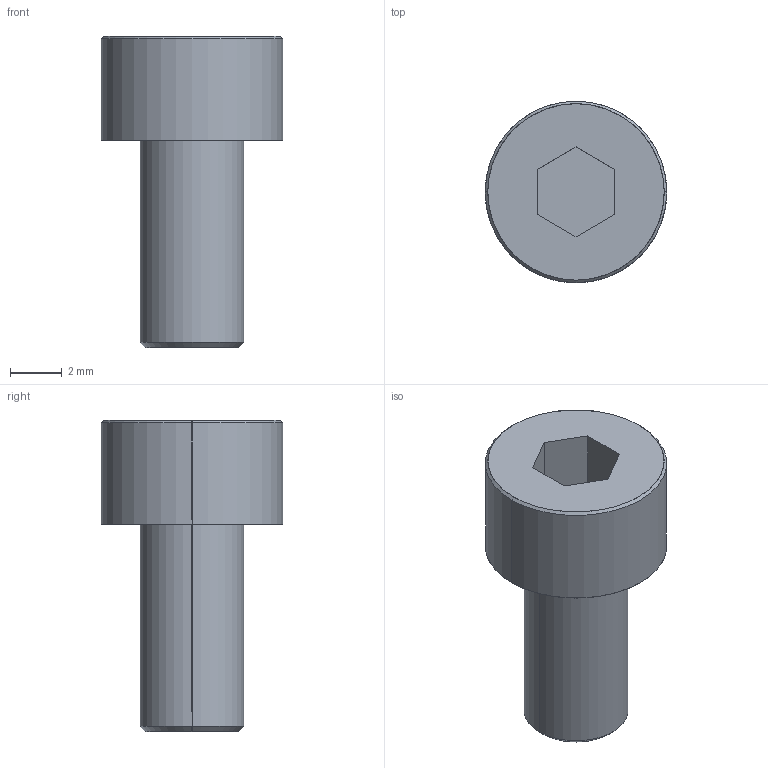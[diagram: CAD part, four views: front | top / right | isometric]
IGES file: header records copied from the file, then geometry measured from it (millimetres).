
Start section: SolidWorks IGES file using analytic representation for surfaces
Bounding box: 7 x 7 x 12 mm (x, y, z)
Surface area: 293.8 mm2 (no closed solid volume)
Topology: 0 solids, 0 shells, 18 faces, 196 edges, 196 vertices
Faces by surface type: bspline 10, revolution 8
